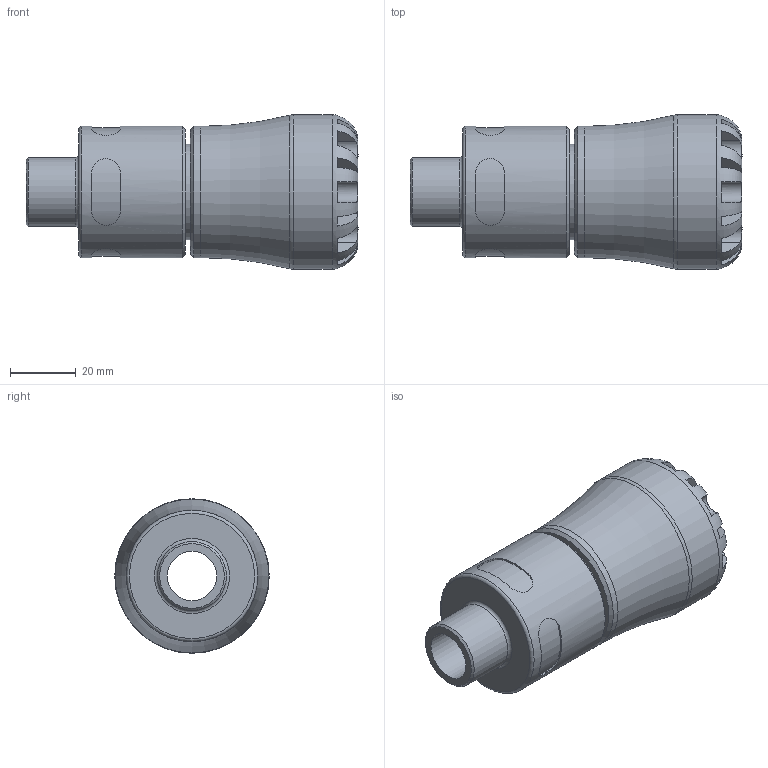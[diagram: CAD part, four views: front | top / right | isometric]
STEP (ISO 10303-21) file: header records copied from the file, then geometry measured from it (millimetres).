
FILE_DESCRIPTION(/* description */ ('PLASSON MALE ADAPTOR 25X1/2" SERIES 1'),/* implementation_level */ '2;1');
FILE_NAME(/* name */ 'C:\Dropbox\KIMPROJECTS-Inventor 2019\99-16-3568-Processing\S1\10N20\stp\10N200025005_10N2G0025005.stp',/* time_stamp */ '2024-03-12T13:19:08+01:00',/* author */ ('KIM'),/* organization */ (''),/* preprocessor_version */ 'ST-DEVELOPER v17.2',/* originating_system */ 'Autodesk Inventor 2019',/* authorisation */ '');
FILE_SCHEMA (('AUTOMOTIVE_DESIGN { 1 0 10303 214 3 1 1 }'));
Length unit declared in the file: millimetre
Products named in the file (1): 10N200025005_10N2G0025005
Bounding box: 101 x 47 x 47 mm (x, y, z)
Volume: 87784.6 mm3; surface area: 22910.3 mm2
Topology: 1 solids, 1 shells, 106 faces, 279 edges, 182 vertices
Faces by surface type: plane 62, cylinder 35, torus 5, cone 4
Full cylindrical faces by diameter (mm): 15 x1, 20.955 x1, 25 x1, 29 x1, 39.95 x2, 47 x1
Entity records: 4224 total; most frequent: CARTESIAN_POINT 1490, ORIENTED_EDGE 558, DIRECTION 552, EDGE_CURVE 279, AXIS2_PLACEMENT_3D 230, VERTEX_POINT 182, CIRCLE 123, EDGE_LOOP 115
